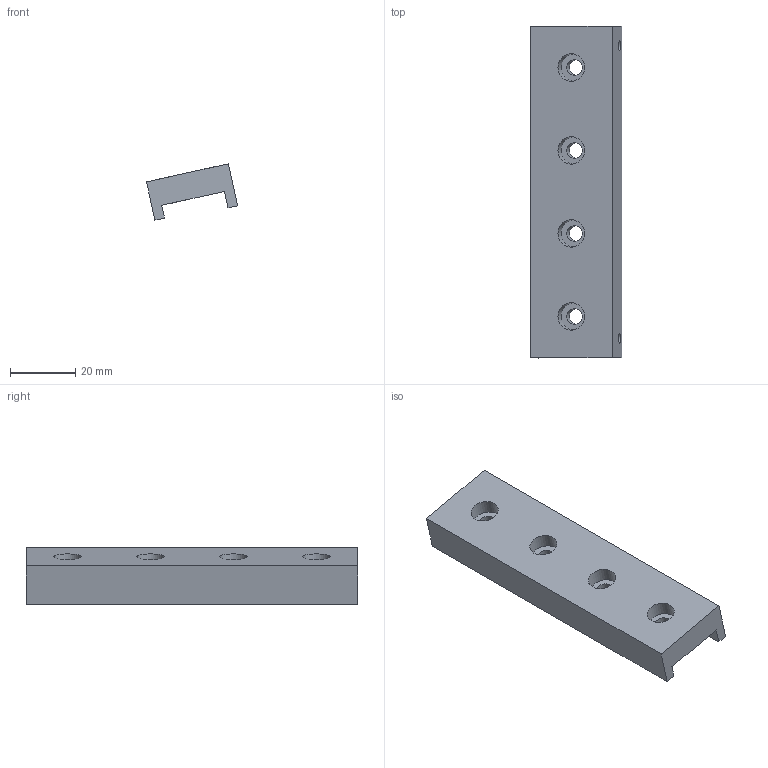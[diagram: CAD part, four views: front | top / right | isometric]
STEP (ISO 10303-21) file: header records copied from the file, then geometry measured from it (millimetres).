
FILE_DESCRIPTION(('Open CASCADE Model'),'2;1');
FILE_NAME('Open CASCADE Shape Model','2026-10-15T17:17:16',('Author'),( 'Open CASCADE'),'Open CASCADE STEP processor 7.9','Open CASCADE 7.9' ,'Unknown');
FILE_SCHEMA(('AUTOMOTIVE_DESIGN { 1 0 10303 214 1 1 1 1 }'));
Length unit declared in the file: millimetre
Products named in the file (1): Open CASCADE STEP translator 7.9 1
Bounding box: 27.89 x 101.6 x 17.27 mm (x, y, z)
Volume: 22345.7 mm3; surface area: 9737 mm2
Topology: 1 solids, 1 shells, 24 faces, 54 edges, 36 vertices
Faces by surface type: plane 14, cylinder 10
Full cylindrical faces by diameter (mm): 3.2 x2, 4.8 x4, 8.4 x4
Entity records: 1462 total; most frequent: CARTESIAN_POINT 319, DIRECTION 216, LINE 122, VECTOR 122, ORIENTED_EDGE 108, PCURVE 108, DEFINITIONAL_REPRESENTATION 108, EDGE_CURVE 54
